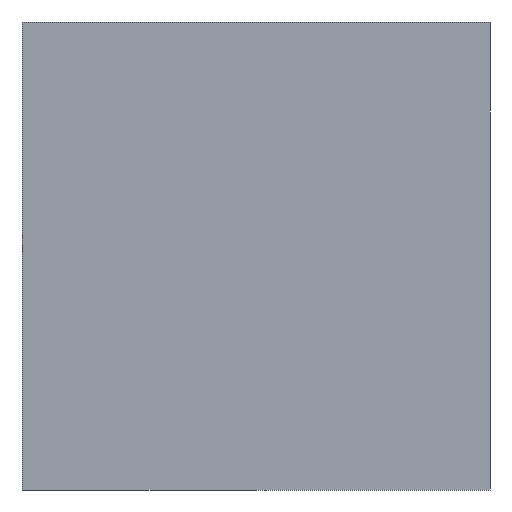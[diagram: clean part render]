
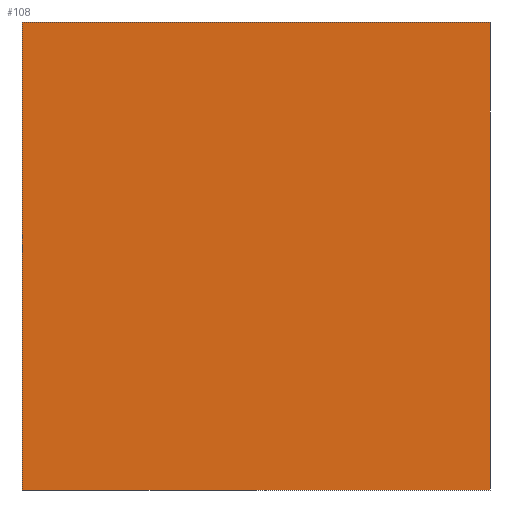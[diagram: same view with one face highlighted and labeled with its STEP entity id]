
A CAD part, left-side view. The second image highlights one B-rep face of the part: STEP entity #108.
In plain terms, the highlighted planar face has unit normal (-1, 0, 0).
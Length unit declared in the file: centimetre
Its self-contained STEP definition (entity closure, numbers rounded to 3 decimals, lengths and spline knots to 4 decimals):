
#16 = DIRECTION ( 'NONE',  ( 1., 0., 0. ) ) ;
#18 = CARTESIAN_POINT ( 'NONE',  ( 0., 1000., 1000. ) ) ;
#23 = VERTEX_POINT ( 'NONE', #218 ) ;
#37 = CARTESIAN_POINT ( 'NONE',  ( 0., 1000., 0. ) ) ;
#39 = EDGE_CURVE ( 'NONE', #48, #150, #381, .T. ) ;
#48 = VERTEX_POINT ( 'NONE', #37 ) ;
#49 = FACE_OUTER_BOUND ( 'NONE', #128, .T. ) ;
#66 = AXIS2_PLACEMENT_3D ( 'NONE', #18, #16, #398 ) ;
#77 = EDGE_CURVE ( 'NONE', #23, #150, #79, .T. ) ;
#79 = LINE ( 'NONE', #400, #134 ) ;
#85 = LINE ( 'NONE', #389, #288 ) ;
#97 = CARTESIAN_POINT ( 'NONE',  ( 0., 1000., 0. ) ) ;
#103 = DIRECTION ( 'NONE',  ( 0., -1., 0. ) ) ;
#108 = ADVANCED_FACE ( 'NONE', ( #49 ), #199, .F. ) ;
#110 = CARTESIAN_POINT ( 'NONE',  ( 0., 0., 0. ) ) ;
#112 = DIRECTION ( 'NONE',  ( 0., -1., 0. ) ) ;
#128 = EDGE_LOOP ( 'NONE', ( #153, #229, #239, #281 ) ) ;
#134 = VECTOR ( 'NONE', #172, 100. ) ;
#150 = VERTEX_POINT ( 'NONE', #110 ) ;
#153 = ORIENTED_EDGE ( 'NONE', *, *, #39, .T. ) ;
#159 = CARTESIAN_POINT ( 'NONE',  ( 0., 1000., 1000. ) ) ;
#167 = EDGE_CURVE ( 'NONE', #196, #23, #85, .T. ) ;
#172 = DIRECTION ( 'NONE',  ( 0., 0., -1. ) ) ;
#196 = VERTEX_POINT ( 'NONE', #366 ) ;
#199 = PLANE ( 'NONE',  #66 ) ;
#213 = LINE ( 'NONE', #159, #271 ) ;
#218 = CARTESIAN_POINT ( 'NONE',  ( 0., 0., 1000. ) ) ;
#229 = ORIENTED_EDGE ( 'NONE', *, *, #77, .F. ) ;
#239 = ORIENTED_EDGE ( 'NONE', *, *, #167, .F. ) ;
#241 = DIRECTION ( 'NONE',  ( 0., 0., -1. ) ) ;
#271 = VECTOR ( 'NONE', #241, 100. ) ;
#281 = ORIENTED_EDGE ( 'NONE', *, *, #326, .T. ) ;
#288 = VECTOR ( 'NONE', #112, 100. ) ;
#326 = EDGE_CURVE ( 'NONE', #196, #48, #213, .T. ) ;
#366 = CARTESIAN_POINT ( 'NONE',  ( 0., 1000., 1000. ) ) ;
#381 = LINE ( 'NONE', #97, #388 ) ;
#388 = VECTOR ( 'NONE', #103, 100. ) ;
#389 = CARTESIAN_POINT ( 'NONE',  ( 0., 1000., 1000. ) ) ;
#398 = DIRECTION ( 'NONE',  ( 0., 0., -1. ) ) ;
#400 = CARTESIAN_POINT ( 'NONE',  ( 0., 0., 1000. ) ) ;
